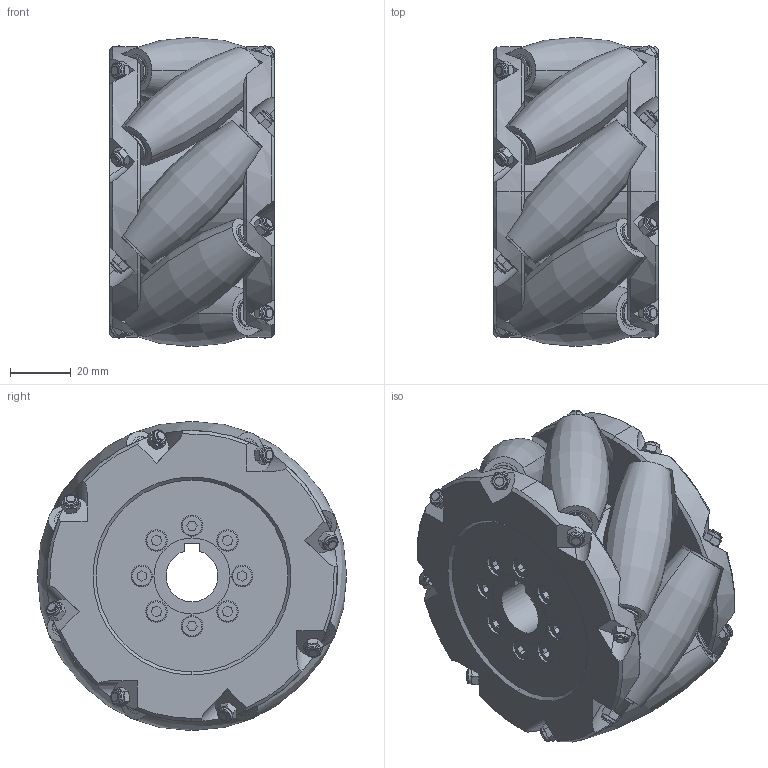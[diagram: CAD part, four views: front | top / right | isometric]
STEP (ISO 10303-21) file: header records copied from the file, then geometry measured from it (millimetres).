
FILE_DESCRIPTION(('Open CASCADE Model'),'2;1');
FILE_NAME('MX100-R.STEP','2026-10-19T14:22:30',('Author'),( 'Open CASCADE'),'Open CASCADE STEP processor 7.9','Open CASCADE 7.9' ,'Unknown');
FILE_SCHEMA(('AUTOMOTIVE_DESIGN { 1 0 10303 214 1 1 1 1 }'));
Length unit declared in the file: millimetre
Products named in the file (252): MX100-R; Open CASCADE STEP translator 7.9 1.1; Open CASCADE STEP translator 7.9 1.2; Open CASCADE STEP translator 7.9 1.3; Open CASCADE STEP translator 7.9 1.4; Open CASCADE STEP translator 7.9 1.5; Open CASCADE STEP translator 7.9 1.6; Open CASCADE STEP translator 7.9 1.6.1; Open CASCADE STEP translator 7.9 1.6.2; Open CASCADE STEP translator 7.9 1.6.3; Open CASCADE STEP translator 7.9 1.6.4; Open CASCADE STEP translator 7.9 1.6.5; Open CASCADE STEP translator 7.9 1.6.6; Open CASCADE STEP translator 7.9 1.6.7; Open CASCADE STEP translator 7.9 1.6.8; Open CASCADE STEP translator 7.9 1.6.9; Open CASCADE STEP translator 7.9 1.6.10; Open CASCADE STEP translator 7.9 1.7; Open CASCADE STEP translator 7.9 1.7.1; Open CASCADE STEP translator 7.9 1.7.2; Open CASCADE STEP translator 7.9 1.7.3; Open CASCADE STEP translator 7.9 1.7.4; Open CASCADE STEP translator 7.9 1.7.5; Open CASCADE STEP translator 7.9 1.7.6; Open CASCADE STEP translator 7.9 1.7.7; Open CASCADE STEP translator 7.9 1.7.8; Open CASCADE STEP translator 7.9 1.7.9; Open CASCADE STEP translator 7.9 1.7.10; Open CASCADE STEP translator 7.9 1.8; Open CASCADE STEP translator 7.9 1.9; Open CASCADE STEP translator 7.9 1.10; Open CASCADE STEP translator 7.9 1.11; Open CASCADE STEP translator 7.9 1.12; Open CASCADE STEP translator 7.9 1.13; Open CASCADE STEP translator 7.9 1.14; Open CASCADE STEP translator 7.9 1.15; Open CASCADE STEP translator 7.9 1.16; Open CASCADE STEP translator 7.9 1.17; Open CASCADE STEP translator 7.9 1.18; Open CASCADE STEP translator 7.9 1.19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
Assembly tree (251 placements, depth 3):
  MX100-R
    Open CASCADE STEP translator 7.9 1.1
    Open CASCADE STEP translator 7.9 1.2
    Open CASCADE STEP translator 7.9 1.3
    Open CASCADE STEP translator 7.9 1.4
    Open CASCADE STEP translator 7.9 1.5
    Open CASCADE STEP translator 7.9 1.6
      Open CASCADE STEP translator 7.9 1.6.1
      Open CASCADE STEP translator 7.9 1.6.2
      Open CASCADE STEP translator 7.9 1.6.3
      Open CASCADE STEP translator 7.9 1.6.4
      Open CASCADE STEP translator 7.9 1.6.5
      Open CASCADE STEP translator 7.9 1.6.6
      Open CASCADE STEP translator 7.9 1.6.7
      Open CASCADE STEP translator 7.9 1.6.8
      Open CASCADE STEP translator 7.9 1.6.9
      Open CASCADE STEP translator 7.9 1.6.10
    Open CASCADE STEP translator 7.9 1.7
      Open CASCADE STEP translator 7.9 1.7.1
      Open CASCADE STEP translator 7.9 1.7.2
      Open CASCADE STEP translator 7.9 1.7.3
      Open CASCADE STEP translator 7.9 1.7.4
      Open CASCADE STEP translator 7.9 1.7.5
      Open CASCADE STEP translator 7.9 1.7.6
      Open CASCADE STEP translator 7.9 1.7.7
      Open CASCADE STEP translator 7.9 1.7.8
      Open CASCADE STEP translator 7.9 1.7.9
      Open CASCADE STEP translator 7.9 1.7.10
    Open CASCADE STEP translator 7.9 1.8
    Open CASCADE STEP translator 7.9 1.9
    Open CASCADE STEP translator 7.9 1.10
    Open CASCADE STEP translator 7.9 1.11
    Open CASCADE STEP translator 7.9 1.12
    Open CASCADE STEP translator 7.9 1.13
    Open CASCADE STEP translator 7.9 1.14
    Open CASCADE STEP translator 7.9 1.15
    Open CASCADE STEP translator 7.9 1.16
    Open CASCADE STEP translator 7.9 1.17
    Open CASCADE STEP translator 7.9 1.18
    Open CASCADE STEP translator 7.9 1.19
    Open CASCADE STEP translator 7.9 1.20
    Open CASCADE STEP translator 7.9 1.21
    Open CASCADE STEP translator 7.9 1.22
    Open CASCADE STEP translator 7.9 1.23
    Open CASCADE STEP translator 7.9 1.24
    Open CASCADE STEP translator 7.9 1.25
    Open CASCADE STEP translator 7.9 1.26
    Open CASCADE STEP translator 7.9 1.27
    Open CASCADE STEP translator 7.9 1.28
    Open CASCADE STEP translator 7.9 1.29
    Open CASCADE STEP translator 7.9 1.30
    Open CASCADE STEP translator 7.9 1.31
    Open CASCADE STEP translator 7.9 1.32
    Open CASCADE STEP translator 7.9 1.33
    Open CASCADE STEP translator 7.9 1.34
    Open CASCADE STEP translator 7.9 1.35
    Open CASCADE STEP translator 7.9 1.36
    Open CASCADE STEP translator 7.9 1.37
    Open CASCADE STEP translator 7.9 1.38
    Open CASCADE STEP translator 7.9 1.39
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Bounding box: 54 x 101.27 x 101.27 mm (x, y, z)
Volume: 269382.7 mm3; surface area: 148421.1 mm2
Topology: 235 solids, 235 shells, 2152 faces, 4978 edges, 3124 vertices
Faces by surface type: cylinder 655, plane 557, torus 384, cone 284, sphere 256, revolution 16
Entity records: 150001 total; most frequent: CARTESIAN_POINT 49204, DIRECTION 19215, ORIENTED_EDGE 9444, PCURVE 9444, DEFINITIONAL_REPRESENTATION 9444, LINE 8450, VECTOR 8450, AXIS2_PLACEMENT_3D 5106
